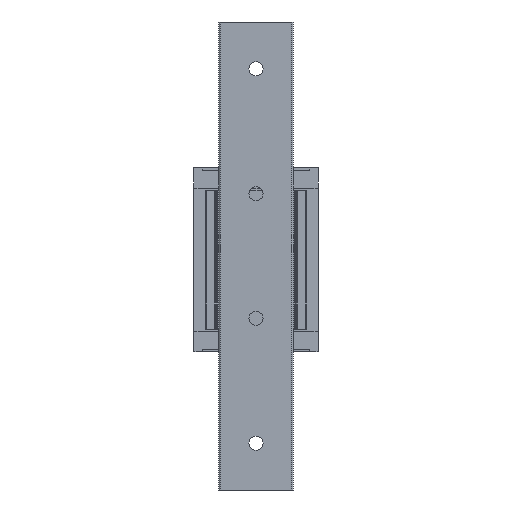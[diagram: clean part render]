
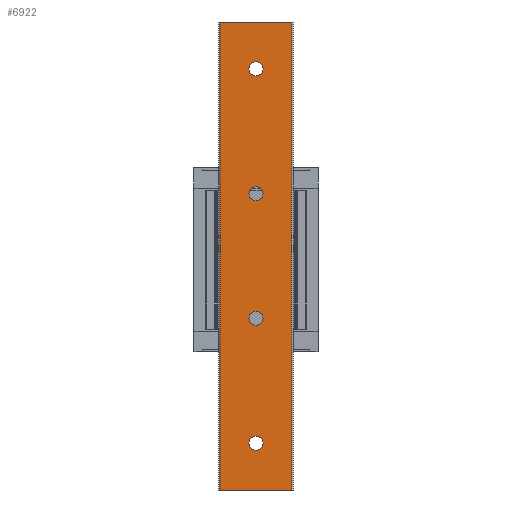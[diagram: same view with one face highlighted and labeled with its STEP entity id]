
A CAD part, front view. The second image highlights one B-rep face of the part: STEP entity #6922.
In plain terms, the highlighted planar face has unit normal (0, -1, 0).
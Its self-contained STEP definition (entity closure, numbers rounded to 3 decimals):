
#104 = EDGE_CURVE ( 'NONE', #4906, #2086, #244, .T. ) ;
#113 = DIRECTION ( 'NONE',  ( 0., 0., 1. ) ) ;
#244 = LINE ( 'NONE', #1962, #1379 ) ;
#349 = VERTEX_POINT ( 'NONE', #11310 ) ;
#490 = CARTESIAN_POINT ( 'NONE',  ( 0., 0., 17.25 ) ) ;
#653 = VECTOR ( 'NONE', #9094, 1000. ) ;
#776 = DIRECTION ( 'NONE',  ( 0., 1., 0. ) ) ;
#862 = ORIENTED_EDGE ( 'NONE', *, *, #11269, .T. ) ;
#884 = DIRECTION ( 'NONE',  ( 0., 0., -1. ) ) ;
#1051 = AXIS2_PLACEMENT_3D ( 'NONE', #6393, #5576, #113 ) ;
#1209 = CARTESIAN_POINT ( 'NONE',  ( 0., 0., 137.25 ) ) ;
#1242 = CARTESIAN_POINT ( 'NONE',  ( 0., 0., 95. ) ) ;
#1244 = DIRECTION ( 'NONE',  ( 0., 1., 0. ) ) ;
#1292 = CARTESIAN_POINT ( 'NONE',  ( -11.5, 0., 150. ) ) ;
#1371 = CARTESIAN_POINT ( 'NONE',  ( -11.5, 0., 0. ) ) ;
#1379 = VECTOR ( 'NONE', #4630, 1000. ) ;
#1422 = ORIENTED_EDGE ( 'NONE', *, *, #8187, .T. ) ;
#1624 = CIRCLE ( 'NONE', #10263, 2.25 ) ;
#1643 = DIRECTION ( 'NONE',  ( 0., 0., 1. ) ) ;
#1721 = AXIS2_PLACEMENT_3D ( 'NONE', #6139, #776, #7036 ) ;
#1962 = CARTESIAN_POINT ( 'NONE',  ( -11.5, 0., 150. ) ) ;
#1975 = CARTESIAN_POINT ( 'NONE',  ( 11.5, 0., 0. ) ) ;
#1979 = CARTESIAN_POINT ( 'NONE',  ( 11.5, 0., 150. ) ) ;
#2086 = VERTEX_POINT ( 'NONE', #2259 ) ;
#2259 = CARTESIAN_POINT ( 'NONE',  ( -11.5, 0., 0. ) ) ;
#2338 = VECTOR ( 'NONE', #884, 1000. ) ;
#2413 = CARTESIAN_POINT ( 'NONE',  ( 0., 0., 92.75 ) ) ;
#2482 = CARTESIAN_POINT ( 'NONE',  ( 0., 0., 97.25 ) ) ;
#2597 = ORIENTED_EDGE ( 'NONE', *, *, #9831, .T. ) ;
#2871 = VERTEX_POINT ( 'NONE', #1209 ) ;
#3054 = DIRECTION ( 'NONE',  ( 0., 0., 1. ) ) ;
#3055 = DIRECTION ( 'NONE',  ( 0., 0., 1. ) ) ;
#3185 = CARTESIAN_POINT ( 'NONE',  ( 0., 0., 135. ) ) ;
#3422 = CARTESIAN_POINT ( 'NONE',  ( 0., 0., 15. ) ) ;
#3432 = LINE ( 'NONE', #9936, #2338 ) ;
#3573 = CARTESIAN_POINT ( 'NONE',  ( 0., 0., 57.25 ) ) ;
#3590 = DIRECTION ( 'NONE',  ( 0., 1., 0. ) ) ;
#3676 = CIRCLE ( 'NONE', #7140, 2.25 ) ;
#4033 = DIRECTION ( 'NONE',  ( 0., 0., 1. ) ) ;
#4162 = CIRCLE ( 'NONE', #7408, 2.25 ) ;
#4268 = DIRECTION ( 'NONE',  ( 0., 0., 1. ) ) ;
#4420 = DIRECTION ( 'NONE',  ( 0., 1., 0. ) ) ;
#4488 = VERTEX_POINT ( 'NONE', #3573 ) ;
#4620 = CARTESIAN_POINT ( 'NONE',  ( -11.5, 0., 150. ) ) ;
#4625 = ORIENTED_EDGE ( 'NONE', *, *, #5445, .T. ) ;
#4630 = DIRECTION ( 'NONE',  ( 0., 0., -1. ) ) ;
#4747 = FACE_BOUND ( 'NONE', #7932, .T. ) ;
#4830 = AXIS2_PLACEMENT_3D ( 'NONE', #10173, #1244, #8647 ) ;
#4906 = VERTEX_POINT ( 'NONE', #1292 ) ;
#4918 = ORIENTED_EDGE ( 'NONE', *, *, #8096, .F. ) ;
#4962 = ORIENTED_EDGE ( 'NONE', *, *, #8700, .T. ) ;
#5201 = DIRECTION ( 'NONE',  ( 0., 1., 0. ) ) ;
#5300 = VECTOR ( 'NONE', #6815, 1000. ) ;
#5445 = EDGE_CURVE ( 'NONE', #4488, #10176, #9835, .T. ) ;
#5576 = DIRECTION ( 'NONE',  ( 0., 1., 0. ) ) ;
#5640 = EDGE_CURVE ( 'NONE', #8746, #6537, #6465, .T. ) ;
#6020 = CARTESIAN_POINT ( 'NONE',  ( 0., 0., 52.75 ) ) ;
#6139 = CARTESIAN_POINT ( 'NONE',  ( -11.5, 0., 150. ) ) ;
#6339 = ORIENTED_EDGE ( 'NONE', *, *, #5640, .T. ) ;
#6393 = CARTESIAN_POINT ( 'NONE',  ( 0., 0., 135. ) ) ;
#6465 = CIRCLE ( 'NONE', #9248, 2.25 ) ;
#6503 = ORIENTED_EDGE ( 'NONE', *, *, #9288, .F. ) ;
#6537 = VERTEX_POINT ( 'NONE', #490 ) ;
#6556 = AXIS2_PLACEMENT_3D ( 'NONE', #1242, #10287, #3054 ) ;
#6607 = EDGE_CURVE ( 'NONE', #11086, #9096, #10757, .T. ) ;
#6815 = DIRECTION ( 'NONE',  ( 1., 0., 0. ) ) ;
#6922 = ADVANCED_FACE ( 'NONE', ( #4747, #11340, #11050, #7410, #11624 ), #7001, .F. ) ;
#6957 = LINE ( 'NONE', #4620, #653 ) ;
#7001 = PLANE ( 'NONE',  #1721 ) ;
#7036 = DIRECTION ( 'NONE',  ( -1., 0., 0. ) ) ;
#7101 = CIRCLE ( 'NONE', #11095, 2.25 ) ;
#7136 = EDGE_LOOP ( 'NONE', ( #9959, #6339 ) ) ;
#7140 = AXIS2_PLACEMENT_3D ( 'NONE', #3422, #5201, #1643 ) ;
#7408 = AXIS2_PLACEMENT_3D ( 'NONE', #3185, #8611, #4033 ) ;
#7410 = FACE_BOUND ( 'NONE', #9958, .T. ) ;
#7461 = EDGE_LOOP ( 'NONE', ( #1422, #862 ) ) ;
#7465 = DIRECTION ( 'NONE',  ( 0., 1., 0. ) ) ;
#7851 = EDGE_CURVE ( 'NONE', #2086, #10108, #10055, .T. ) ;
#7932 = EDGE_LOOP ( 'NONE', ( #4625, #2597 ) ) ;
#7936 = EDGE_LOOP ( 'NONE', ( #9243, #6503, #4918, #8522 ) ) ;
#8096 = EDGE_CURVE ( 'NONE', #4906, #8574, #6957, .T. ) ;
#8187 = EDGE_CURVE ( 'NONE', #2871, #349, #4162, .T. ) ;
#8399 = CARTESIAN_POINT ( 'NONE',  ( 0., 0., 95. ) ) ;
#8522 = ORIENTED_EDGE ( 'NONE', *, *, #104, .T. ) ;
#8574 = VERTEX_POINT ( 'NONE', #1979 ) ;
#8611 = DIRECTION ( 'NONE',  ( 0., 1., 0. ) ) ;
#8647 = DIRECTION ( 'NONE',  ( 0., 0., 1. ) ) ;
#8700 = EDGE_CURVE ( 'NONE', #9096, #11086, #7101, .T. ) ;
#8746 = VERTEX_POINT ( 'NONE', #10171 ) ;
#8841 = CARTESIAN_POINT ( 'NONE',  ( 0., 0., 15. ) ) ;
#8964 = CARTESIAN_POINT ( 'NONE',  ( 0., 0., 55. ) ) ;
#9094 = DIRECTION ( 'NONE',  ( 1., 0., 0. ) ) ;
#9096 = VERTEX_POINT ( 'NONE', #2413 ) ;
#9243 = ORIENTED_EDGE ( 'NONE', *, *, #7851, .T. ) ;
#9248 = AXIS2_PLACEMENT_3D ( 'NONE', #8841, #4420, #4268 ) ;
#9288 = EDGE_CURVE ( 'NONE', #8574, #10108, #3432, .T. ) ;
#9831 = EDGE_CURVE ( 'NONE', #10176, #4488, #1624, .T. ) ;
#9835 = CIRCLE ( 'NONE', #4830, 2.25 ) ;
#9936 = CARTESIAN_POINT ( 'NONE',  ( 11.5, 0., 150. ) ) ;
#9958 = EDGE_LOOP ( 'NONE', ( #11142, #4962 ) ) ;
#9959 = ORIENTED_EDGE ( 'NONE', *, *, #10411, .T. ) ;
#10055 = LINE ( 'NONE', #1371, #5300 ) ;
#10108 = VERTEX_POINT ( 'NONE', #1975 ) ;
#10171 = CARTESIAN_POINT ( 'NONE',  ( 0., 0., 12.75 ) ) ;
#10173 = CARTESIAN_POINT ( 'NONE',  ( 0., 0., 55. ) ) ;
#10176 = VERTEX_POINT ( 'NONE', #6020 ) ;
#10263 = AXIS2_PLACEMENT_3D ( 'NONE', #8964, #3590, #10689 ) ;
#10287 = DIRECTION ( 'NONE',  ( 0., 1., 0. ) ) ;
#10411 = EDGE_CURVE ( 'NONE', #6537, #8746, #3676, .T. ) ;
#10689 = DIRECTION ( 'NONE',  ( 0., 0., 1. ) ) ;
#10757 = CIRCLE ( 'NONE', #6556, 2.25 ) ;
#11050 = FACE_OUTER_BOUND ( 'NONE', #7936, .T. ) ;
#11086 = VERTEX_POINT ( 'NONE', #2482 ) ;
#11095 = AXIS2_PLACEMENT_3D ( 'NONE', #8399, #7465, #3055 ) ;
#11142 = ORIENTED_EDGE ( 'NONE', *, *, #6607, .T. ) ;
#11269 = EDGE_CURVE ( 'NONE', #349, #2871, #11639, .T. ) ;
#11310 = CARTESIAN_POINT ( 'NONE',  ( 0., 0., 132.75 ) ) ;
#11340 = FACE_BOUND ( 'NONE', #7136, .T. ) ;
#11624 = FACE_BOUND ( 'NONE', #7461, .T. ) ;
#11639 = CIRCLE ( 'NONE', #1051, 2.25 ) ;
